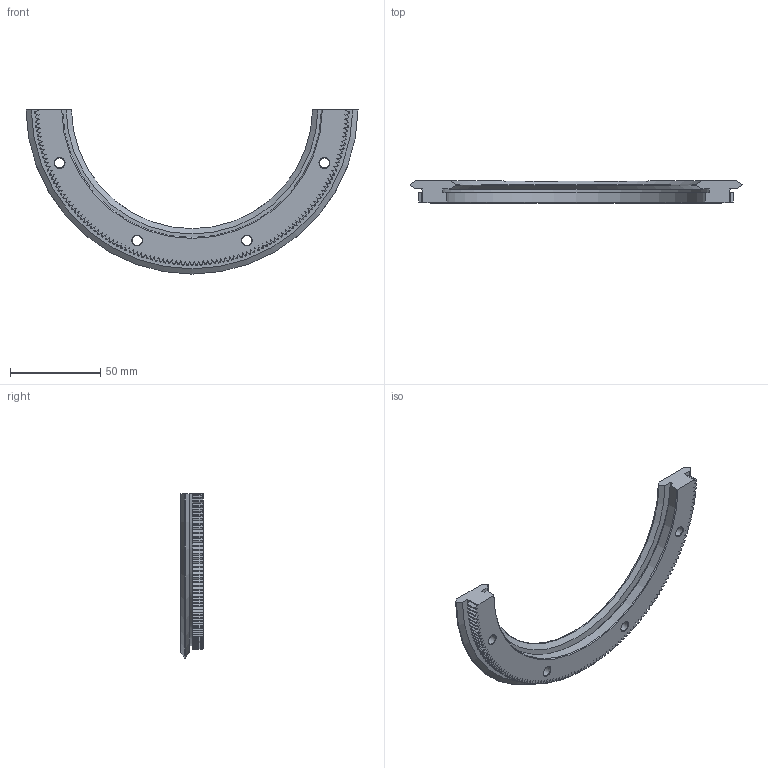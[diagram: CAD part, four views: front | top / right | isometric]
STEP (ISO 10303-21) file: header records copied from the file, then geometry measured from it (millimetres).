
FILE_DESCRIPTION( ( 'STEP AP203' ), '1' );
FILE_NAME( 'p:/temp/worker_47/temp/exporttempdir_7100_406_q9JWF/format_0/R25 159 R180 P.stp', '2021-08-30T04:11:49', ( 'License CC BY-ND 4.0' ), ( 'CADENAS' ), ' ', 'PARTsolutions', ' ' );
FILE_SCHEMA( ( 'CONFIG_CONTROL_DESIGN' ) );
Length unit declared in the file: millimetre
Products named in the file (1): _R25 159 R180 P
Bounding box: 184.17 x 12.25 x 91.09 mm (x, y, z)
Volume: 49204.2 mm3; surface area: 21918.3 mm2
Topology: 1 solids, 1 shells, 680 faces, 1802 edges, 1128 vertices
Faces by surface type: plane 444, cylinder 118, cone 116, torus 2
Full cylindrical faces by diameter (mm): 5.5 x4, 9 x4
Entity records: 21154 total; most frequent: CARTESIAN_POINT 4308, ORIENTED_EDGE 3580, DIRECTION 3496, EDGE_CURVE 1790, AXIS2_PLACEMENT_3D 1253, VERTEX_POINT 1129, LINE 990, VECTOR 990
